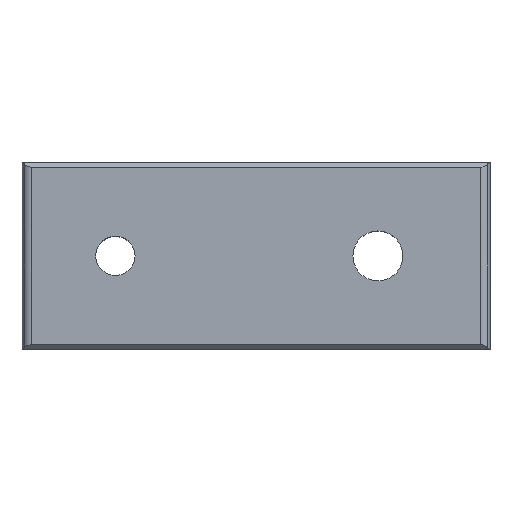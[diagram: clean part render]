
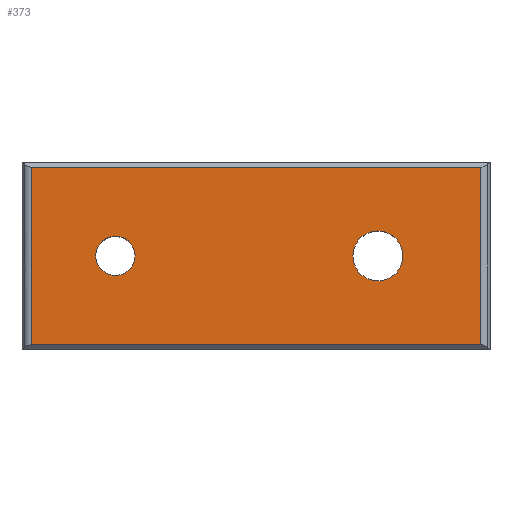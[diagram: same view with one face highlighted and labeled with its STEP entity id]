
A CAD part, top view. The second image highlights one B-rep face of the part: STEP entity #373.
In plain terms, the highlighted planar face has unit normal (0, 0, 1).
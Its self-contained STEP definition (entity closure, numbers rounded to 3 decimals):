
#72=CARTESIAN_POINT('',(12.1,10.,6.));
#73=VERTEX_POINT('',#72);
#89=CARTESIAN_POINT('',(7.9,10.,6.));
#90=VERTEX_POINT('',#89);
#97=CARTESIAN_POINT('',(10.,10.,6.));
#98=DIRECTION('',(0.0,0.0,-1.0));
#99=DIRECTION('',(1.0,0.0,0.0));
#100=AXIS2_PLACEMENT_3D('',#97,#98,#99);
#101=CIRCLE('',#100,2.1);
#102=EDGE_CURVE('',#73,#90,#101,.T.);
#135=CARTESIAN_POINT('',(40.775,10.,6.));
#136=VERTEX_POINT('',#135);
#152=CARTESIAN_POINT('',(35.425,10.,6.));
#153=VERTEX_POINT('',#152);
#160=CARTESIAN_POINT('',(38.1,10.,6.));
#161=DIRECTION('',(0.0,0.0,-1.0));
#162=DIRECTION('',(1.0,0.0,0.0));
#163=AXIS2_PLACEMENT_3D('',#160,#161,#162);
#164=CIRCLE('',#163,2.675);
#165=EDGE_CURVE('',#136,#153,#164,.T.);
#185=CARTESIAN_POINT('',(1.,0.5,6.));
#186=VERTEX_POINT('',#185);
#194=CARTESIAN_POINT('',(1.,19.5,6.));
#195=VERTEX_POINT('',#194);
#196=CARTESIAN_POINT('',(1.,0.5,6.));
#197=DIRECTION('',(0.0,1.0,0.0));
#198=VECTOR('',#197,19.);
#199=LINE('',#196,#198);
#200=EDGE_CURVE('',#186,#195,#199,.T.);
#227=CARTESIAN_POINT('',(49.1,19.5,6.));
#228=VERTEX_POINT('',#227);
#236=CARTESIAN_POINT('',(49.1,0.5,6.));
#237=VERTEX_POINT('',#236);
#238=CARTESIAN_POINT('',(49.1,19.5,6.));
#239=DIRECTION('',(0.0,-1.0,0.0));
#240=VECTOR('',#239,19.);
#241=LINE('',#238,#240);
#242=EDGE_CURVE('',#228,#237,#241,.T.);
#311=CARTESIAN_POINT('',(49.1,0.5,6.));
#312=DIRECTION('',(-1.0,0.0,0.0));
#313=VECTOR('',#312,48.1);
#314=LINE('',#311,#313);
#315=EDGE_CURVE('',#237,#186,#314,.T.);
#337=CARTESIAN_POINT('',(25.05,10.0,6.));
#338=DIRECTION('',(0.0,0.0,1.0));
#339=DIRECTION('',(1.0,0.0,0.0));
#340=AXIS2_PLACEMENT_3D('',#337,#338,#339);
#341=PLANE('',#340);
#342=ORIENTED_EDGE('',*,*,#242,.F.);
#343=CARTESIAN_POINT('',(1.,19.5,6.));
#344=DIRECTION('',(1.0,0.0,0.0));
#345=VECTOR('',#344,48.1);
#346=LINE('',#343,#345);
#347=EDGE_CURVE('',#195,#228,#346,.T.);
#348=ORIENTED_EDGE('',*,*,#347,.F.);
#349=ORIENTED_EDGE('',*,*,#200,.F.);
#350=ORIENTED_EDGE('',*,*,#315,.F.);
#351=EDGE_LOOP('',(#342,#348,#349,#350));
#352=FACE_OUTER_BOUND('',#351,.T.);
#353=ORIENTED_EDGE('',*,*,#102,.T.);
#354=CARTESIAN_POINT('',(10.,10.,6.));
#355=DIRECTION('',(0.0,0.0,-1.0));
#356=DIRECTION('',(1.0,0.0,0.0));
#357=AXIS2_PLACEMENT_3D('',#354,#355,#356);
#358=CIRCLE('',#357,2.1);
#359=EDGE_CURVE('',#90,#73,#358,.T.);
#360=ORIENTED_EDGE('',*,*,#359,.T.);
#361=EDGE_LOOP('',(#353,#360));
#362=FACE_BOUND('',#361,.T.);
#363=ORIENTED_EDGE('',*,*,#165,.T.);
#364=CARTESIAN_POINT('',(38.1,10.,6.));
#365=DIRECTION('',(0.0,0.0,-1.0));
#366=DIRECTION('',(1.0,0.0,0.0));
#367=AXIS2_PLACEMENT_3D('',#364,#365,#366);
#368=CIRCLE('',#367,2.675);
#369=EDGE_CURVE('',#153,#136,#368,.T.);
#370=ORIENTED_EDGE('',*,*,#369,.T.);
#371=EDGE_LOOP('',(#363,#370));
#372=FACE_BOUND('',#371,.T.);
#373=ADVANCED_FACE('',(#352,#362,#372),#341,.T.);
